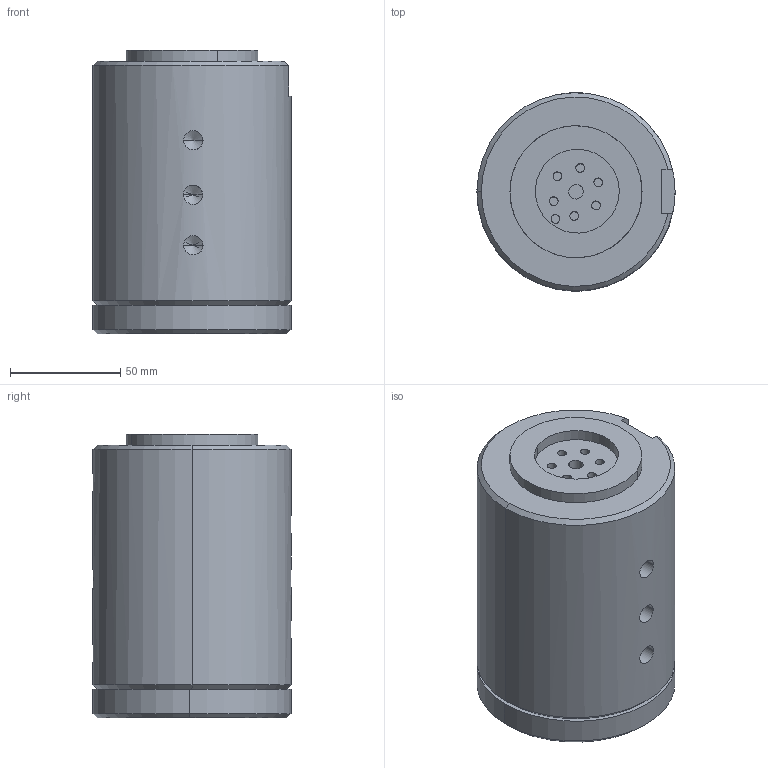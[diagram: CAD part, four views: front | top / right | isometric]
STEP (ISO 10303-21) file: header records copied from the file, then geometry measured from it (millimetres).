
FILE_DESCRIPTION (( 'STEP AP214' ), '1' );
FILE_NAME ('6-port rotary-std.STEP', '2022-11-17T10:41:22', ( '' ), ( '' ), 'SwSTEP 2.0', 'SolidWorks 2019', '' );
FILE_SCHEMA (( 'AUTOMOTIVE_DESIGN' ));
Length unit declared in the file: millimetre
Products named in the file (4): shaft; housing; cap; 6-port rotary-std
Assembly tree (3 placements, depth 2):
  6-port rotary-std
    housing
    shaft
    cap
Bounding box: 90 x 90 x 129 mm (x, y, z)
Volume: 764839.1 mm3; surface area: 112106.6 mm2
Topology: 3 solids, 3 shells, 104 faces, 231 edges, 139 vertices
Faces by surface type: cylinder 58, plane 24, cone 22
Entity records: 3507 total; most frequent: CARTESIAN_POINT 866, DIRECTION 533, ORIENTED_EDGE 430, AXIS2_PLACEMENT_3D 222, EDGE_CURVE 215, VERTEX_POINT 139, EDGE_LOOP 134, CIRCLE 112
